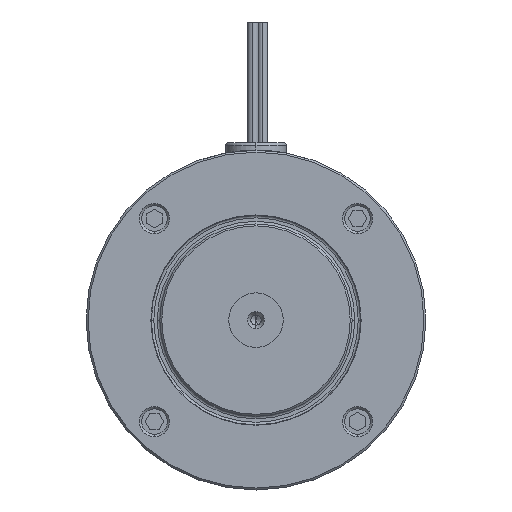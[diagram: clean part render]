
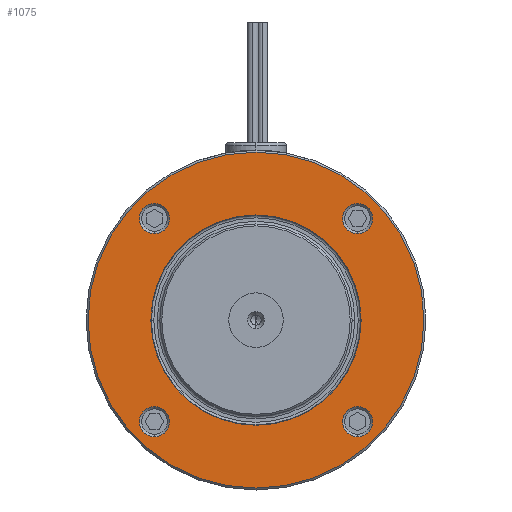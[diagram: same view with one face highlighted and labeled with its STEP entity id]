
A CAD part, left-side view. The second image highlights one B-rep face of the part: STEP entity #1075.
In plain terms, the highlighted planar face has unit normal (-1, 0, 0).
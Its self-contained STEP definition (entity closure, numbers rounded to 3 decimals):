
#230 = VERTEX_POINT ( 'NONE', #2751 ) ;
#231 = EDGE_CURVE ( 'NONE', #230, #732, #2752, .T. ) ;
#250 = VERTEX_POINT ( 'NONE', #2729 ) ;
#254 = VERTEX_POINT ( 'NONE', #2645 ) ;
#263 = EDGE_CURVE ( 'NONE', #271, #273, #2563, .T. ) ;
#269 = VERTEX_POINT ( 'NONE', #2545 ) ;
#270 = EDGE_CURVE ( 'NONE', #269, #448, #2548, .T. ) ;
#271 = VERTEX_POINT ( 'NONE', #2544 ) ;
#273 = VERTEX_POINT ( 'NONE', #2546 ) ;
#290 = VERTEX_POINT ( 'NONE', #2577 ) ;
#291 = EDGE_CURVE ( 'NONE', #290, #311, #2061, .T. ) ;
#311 = VERTEX_POINT ( 'NONE', #2929 ) ;
#413 = EDGE_CURVE ( 'NONE', #254, #250, #3155, .T. ) ;
#448 = VERTEX_POINT ( 'NONE', #3088 ) ;
#604 = VERTEX_POINT ( 'NONE', #3605 ) ;
#605 = VERTEX_POINT ( 'NONE', #3598 ) ;
#732 = VERTEX_POINT ( 'NONE', #3711 ) ;
#811 = EDGE_CURVE ( 'NONE', #604, #605, #4042, .T. ) ;
#1031 = EDGE_LOOP ( 'NONE', ( #1077, #1071 ) ) ;
#1043 = ORIENTED_EDGE ( 'NONE', *, *, #811, .F. ) ;
#1044 = EDGE_LOOP ( 'NONE', ( #1053, #1081 ) ) ;
#1045 = EDGE_LOOP ( 'NONE', ( #1059, #1049 ) ) ;
#1047 = EDGE_CURVE ( 'NONE', #311, #290, #4323, .T. ) ;
#1048 = EDGE_CURVE ( 'NONE', #605, #604, #4320, .T. ) ;
#1049 = ORIENTED_EDGE ( 'NONE', *, *, #1076, .T. ) ;
#1050 = EDGE_LOOP ( 'NONE', ( #1056, #1055 ) ) ;
#1051 = ORIENTED_EDGE ( 'NONE', *, *, #1048, .F. ) ;
#1052 = EDGE_CURVE ( 'NONE', #732, #230, #4318, .T. ) ;
#1053 = ORIENTED_EDGE ( 'NONE', *, *, #291, .T. ) ;
#1055 = ORIENTED_EDGE ( 'NONE', *, *, #1052, .T. ) ;
#1056 = ORIENTED_EDGE ( 'NONE', *, *, #231, .T. ) ;
#1059 = ORIENTED_EDGE ( 'NONE', *, *, #413, .T. ) ;
#1069 = EDGE_CURVE ( 'NONE', #273, #271, #4312, .T. ) ;
#1071 = ORIENTED_EDGE ( 'NONE', *, *, #1069, .T. ) ;
#1074 = EDGE_LOOP ( 'NONE', ( #1080, #1078 ) ) ;
#1075 = ADVANCED_FACE ( 'NONE', ( #4112, #4275, #4091, #4304, #4092, #4090 ), #4088, .T. ) ;
#1076 = EDGE_CURVE ( 'NONE', #250, #254, #4269, .T. ) ;
#1077 = ORIENTED_EDGE ( 'NONE', *, *, #263, .T. ) ;
#1078 = ORIENTED_EDGE ( 'NONE', *, *, #1079, .T. ) ;
#1079 = EDGE_CURVE ( 'NONE', #448, #269, #4272, .T. ) ;
#1080 = ORIENTED_EDGE ( 'NONE', *, *, #270, .T. ) ;
#1081 = ORIENTED_EDGE ( 'NONE', *, *, #1047, .T. ) ;
#1082 = EDGE_LOOP ( 'NONE', ( #1043, #1051 ) ) ;
#2058 = DIRECTION ( 'NONE',  ( 0., -1., 0. ) ) ;
#2059 = DIRECTION ( 'NONE',  ( 1., 0., 0. ) ) ;
#2060 = CARTESIAN_POINT ( 'NONE',  ( -92., 15.839, 15.839 ) ) ;
#2061 = CIRCLE ( 'NONE', #2249, 2.35 ) ;
#2249 = AXIS2_PLACEMENT_3D ( 'NONE', #2060, #2059, #2058 ) ;
#2535 = AXIS2_PLACEMENT_3D ( 'NONE', #2539, #2547, #2713 ) ;
#2539 = CARTESIAN_POINT ( 'NONE',  ( -92., -15.839, -15.839 ) ) ;
#2544 = CARTESIAN_POINT ( 'NONE',  ( -92., -15.839, 18.189 ) ) ;
#2545 = CARTESIAN_POINT ( 'NONE',  ( -92., -15.839, -13.489 ) ) ;
#2546 = CARTESIAN_POINT ( 'NONE',  ( -92., -15.839, 13.489 ) ) ;
#2547 = DIRECTION ( 'NONE',  ( 1., 0., 0. ) ) ;
#2548 = CIRCLE ( 'NONE', #2535, 2.35 ) ;
#2554 = DIRECTION ( 'NONE',  ( 0., -1., 0. ) ) ;
#2555 = DIRECTION ( 'NONE',  ( 1., 0., 0. ) ) ;
#2563 = CIRCLE ( 'NONE', #2637, 2.35 ) ;
#2577 = CARTESIAN_POINT ( 'NONE',  ( -92., 15.839, 18.189 ) ) ;
#2634 = CARTESIAN_POINT ( 'NONE',  ( -92., -15.839, 15.839 ) ) ;
#2637 = AXIS2_PLACEMENT_3D ( 'NONE', #2634, #2555, #2554 ) ;
#2645 = CARTESIAN_POINT ( 'NONE',  ( -92., 15.839, -13.489 ) ) ;
#2713 = DIRECTION ( 'NONE',  ( 0., -1., 0. ) ) ;
#2729 = CARTESIAN_POINT ( 'NONE',  ( -92., 15.839, -18.189 ) ) ;
#2742 = DIRECTION ( 'NONE',  ( 0., 1., 0. ) ) ;
#2743 = DIRECTION ( 'NONE',  ( 1., 0., 0. ) ) ;
#2751 = CARTESIAN_POINT ( 'NONE',  ( -92., 16.4, 0. ) ) ;
#2752 = CIRCLE ( 'NONE', #2755, 16.4 ) ;
#2755 = AXIS2_PLACEMENT_3D ( 'NONE', #2759, #2743, #2742 ) ;
#2759 = CARTESIAN_POINT ( 'NONE',  ( -92., 0., 0. ) ) ;
#2929 = CARTESIAN_POINT ( 'NONE',  ( -92., 15.839, 13.489 ) ) ;
#3088 = CARTESIAN_POINT ( 'NONE',  ( -92., -15.839, -18.189 ) ) ;
#3151 = DIRECTION ( 'NONE',  ( 0., -1., 0. ) ) ;
#3152 = DIRECTION ( 'NONE',  ( 1., 0., 0. ) ) ;
#3153 = CARTESIAN_POINT ( 'NONE',  ( -92., 15.839, -15.839 ) ) ;
#3154 = AXIS2_PLACEMENT_3D ( 'NONE', #3153, #3152, #3151 ) ;
#3155 = CIRCLE ( 'NONE', #3154, 2.35 ) ;
#3598 = CARTESIAN_POINT ( 'NONE',  ( -92., 26.2, 0. ) ) ;
#3605 = CARTESIAN_POINT ( 'NONE',  ( -92., -26.2, 0. ) ) ;
#3711 = CARTESIAN_POINT ( 'NONE',  ( -92., -16.4, 0. ) ) ;
#4038 = DIRECTION ( 'NONE',  ( 0., 1., 0. ) ) ;
#4039 = DIRECTION ( 'NONE',  ( 1., 0., 0. ) ) ;
#4040 = CARTESIAN_POINT ( 'NONE',  ( -92., 0., 0. ) ) ;
#4041 = AXIS2_PLACEMENT_3D ( 'NONE', #4040, #4039, #4038 ) ;
#4042 = CIRCLE ( 'NONE', #4041, 26.2 ) ;
#4086 = DIRECTION ( 'NONE',  ( 0., -1., 0. ) ) ;
#4087 = DIRECTION ( 'NONE',  ( 1., 0., 0. ) ) ;
#4088 = PLANE ( 'NONE',  #4109 ) ;
#4089 = AXIS2_PLACEMENT_3D ( 'NONE', #4259, #4258, #4257 ) ;
#4090 = FACE_BOUND ( 'NONE', #1050, .T. ) ;
#4091 = FACE_BOUND ( 'NONE', #1045, .T. ) ;
#4092 = FACE_OUTER_BOUND ( 'NONE', #1082, .T. ) ;
#4109 = AXIS2_PLACEMENT_3D ( 'NONE', #4268, #4267, #4266 ) ;
#4110 = AXIS2_PLACEMENT_3D ( 'NONE', #4317, #4087, #4086 ) ;
#4112 = FACE_BOUND ( 'NONE', #1031, .T. ) ;
#4257 = DIRECTION ( 'NONE',  ( 0., -1., 0. ) ) ;
#4258 = DIRECTION ( 'NONE',  ( 1., 0., 0. ) ) ;
#4259 = CARTESIAN_POINT ( 'NONE',  ( -92., -15.839, -15.839 ) ) ;
#4262 = DIRECTION ( 'NONE',  ( 0., -1., 0. ) ) ;
#4263 = DIRECTION ( 'NONE',  ( 1., 0., 0. ) ) ;
#4264 = CARTESIAN_POINT ( 'NONE',  ( -92., 15.839, -15.839 ) ) ;
#4266 = DIRECTION ( 'NONE',  ( 0., 1., 0. ) ) ;
#4267 = DIRECTION ( 'NONE',  ( -1., 0., 0. ) ) ;
#4268 = CARTESIAN_POINT ( 'NONE',  ( -92., 16.4, 0. ) ) ;
#4269 = CIRCLE ( 'NONE', #4273, 2.35 ) ;
#4272 = CIRCLE ( 'NONE', #4089, 2.35 ) ;
#4273 = AXIS2_PLACEMENT_3D ( 'NONE', #4264, #4263, #4262 ) ;
#4275 = FACE_BOUND ( 'NONE', #1074, .T. ) ;
#4304 = FACE_BOUND ( 'NONE', #1044, .T. ) ;
#4305 = DIRECTION ( 'NONE',  ( 0., 1., 0. ) ) ;
#4306 = DIRECTION ( 'NONE',  ( 1., 0., 0. ) ) ;
#4307 = CARTESIAN_POINT ( 'NONE',  ( -92., 0., 0. ) ) ;
#4308 = AXIS2_PLACEMENT_3D ( 'NONE', #4307, #4306, #4305 ) ;
#4309 = DIRECTION ( 'NONE',  ( 0., 1., 0. ) ) ;
#4310 = DIRECTION ( 'NONE',  ( 1., 0., 0. ) ) ;
#4311 = AXIS2_PLACEMENT_3D ( 'NONE', #4316, #4310, #4309 ) ;
#4312 = CIRCLE ( 'NONE', #4110, 2.35 ) ;
#4313 = DIRECTION ( 'NONE',  ( 0., -1., 0. ) ) ;
#4314 = DIRECTION ( 'NONE',  ( 1., 0., 0. ) ) ;
#4315 = AXIS2_PLACEMENT_3D ( 'NONE', #4322, #4314, #4313 ) ;
#4316 = CARTESIAN_POINT ( 'NONE',  ( -92., 0., 0. ) ) ;
#4317 = CARTESIAN_POINT ( 'NONE',  ( -92., -15.839, 15.839 ) ) ;
#4318 = CIRCLE ( 'NONE', #4308, 16.4 ) ;
#4320 = CIRCLE ( 'NONE', #4311, 26.2 ) ;
#4322 = CARTESIAN_POINT ( 'NONE',  ( -92., 15.839, 15.839 ) ) ;
#4323 = CIRCLE ( 'NONE', #4315, 2.35 ) ;
